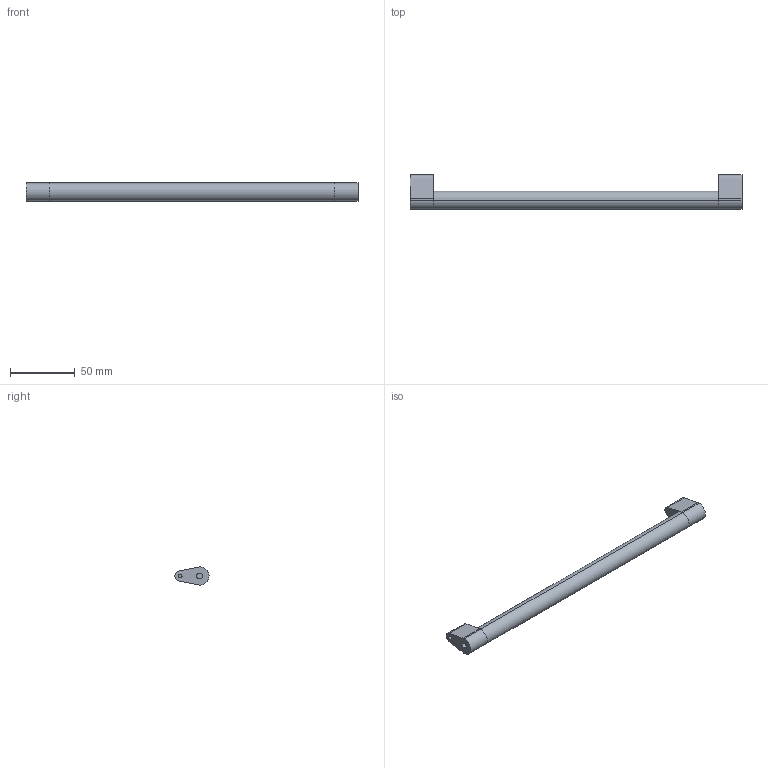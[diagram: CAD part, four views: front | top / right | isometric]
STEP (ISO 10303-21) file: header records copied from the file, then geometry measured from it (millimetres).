
FILE_DESCRIPTION (( 'STEP AP214' ), '1' );
FILE_NAME ('_Synchronisationseinheit DWD XP KAB350_S16.step', '2010-07-08T13:58:15', ( 'grass' ), ( '' ), 'SwSTEP 2.0', 'SolidWorks 2010', '' );
FILE_SCHEMA (( 'AUTOMOTIVE_DESIGN' ));
Length unit declared in the file: millimetre
Products named in the file (1): _Synchronisationseinheit DWD XP KAB350_S16
Bounding box: 257 x 26.5 x 14 mm (x, y, z)
Volume: 43248.9 mm3; surface area: 14150.4 mm2
Topology: 3 solids, 3 shells, 36 faces, 78 edges, 52 vertices
Faces by surface type: cylinder 18, plane 18
Entity records: 1050 total; most frequent: DIRECTION 188, CARTESIAN_POINT 167, ORIENTED_EDGE 156, EDGE_CURVE 78, AXIS2_PLACEMENT_3D 73, VERTEX_POINT 52, LINE 42, VECTOR 42
